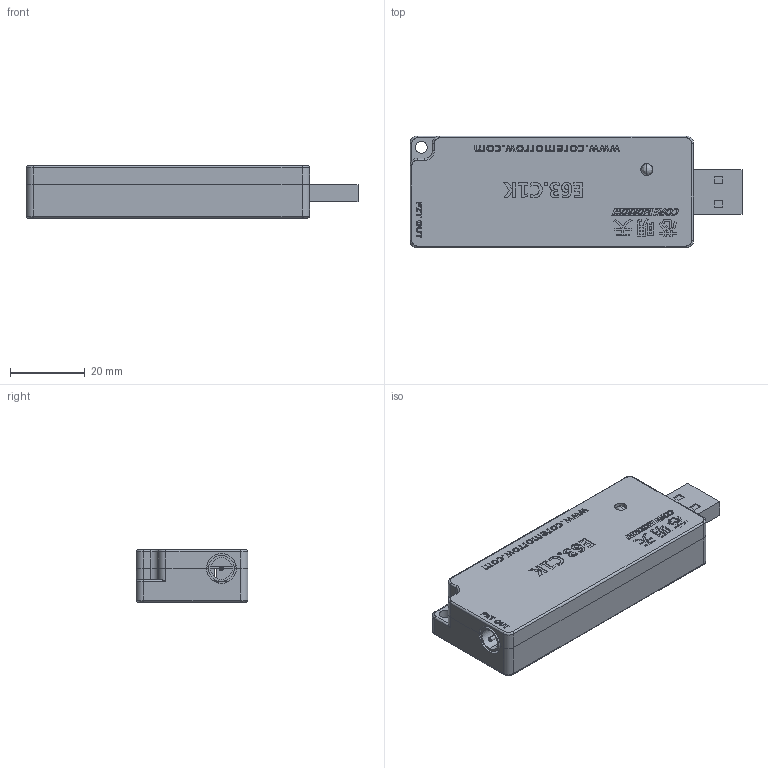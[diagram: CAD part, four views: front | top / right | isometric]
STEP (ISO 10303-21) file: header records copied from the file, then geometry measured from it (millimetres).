
FILE_DESCRIPTION (( 'STEP AP203' ), '1' );
FILE_NAME ('E63.C1K-H.STEP', '2025-07-14T08:06:56', ( 'China' ), ( 'Home' ), 'SwSTEP 2.0', 'SolidWorks 2016', '' );
FILE_SCHEMA (( 'CONFIG_CONTROL_DESIGN' ));
Length unit declared in the file: millimetre
Products named in the file (1): E63.C1K-H
Bounding box: 89 x 30 x 14.05 mm (x, y, z)
Surface area: 12208.7 mm2 (no closed solid volume)
Topology: 0 solids, 10 shells, 764 faces, 2358 edges, 1597 vertices
Faces by surface type: plane 422, bspline 283, cylinder 55, cone 4
Entity records: 39658 total; most frequent: CARTESIAN_POINT 20660, ORIENTED_EDGE 4264, DIRECTION 2874, EDGE_CURVE 2356, LINE 1622, VECTOR 1622, VERTEX_POINT 1597, EDGE_LOOP 849
